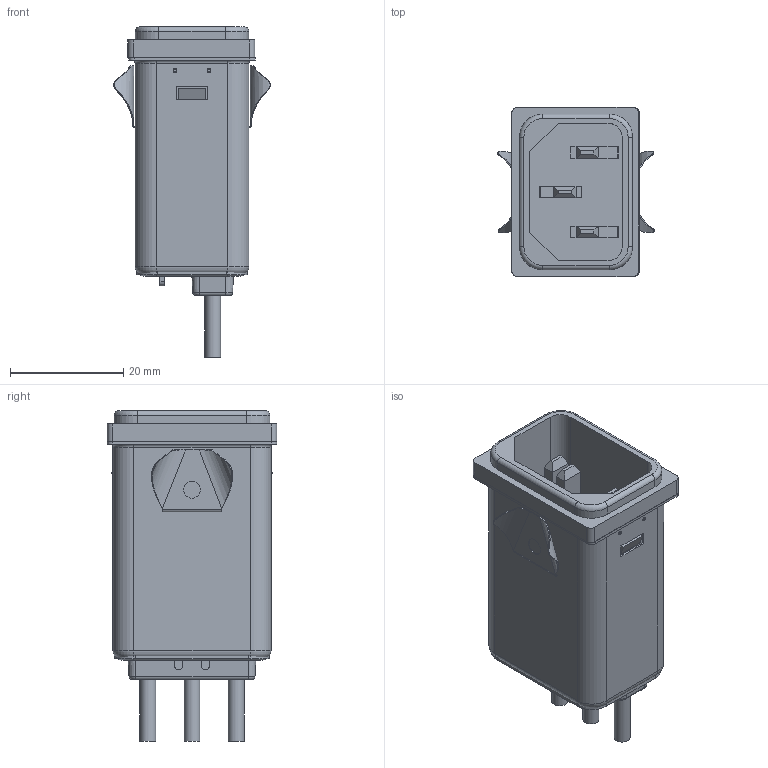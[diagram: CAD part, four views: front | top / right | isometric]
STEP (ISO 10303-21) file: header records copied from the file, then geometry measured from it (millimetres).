
FILE_DESCRIPTION((''),'2;1');
FILE_NAME('D:\_ PRODUCT\FN_PART_FOR_FN9222-XX-07\FN_UPDATE\DB_07 version_Update\3D_inventor\FN9222S1_07.stp','2012-01-12T14:24:40',('sayan.penton'),(''),'Autodesk Inventor 2010','Autodesk Inventor 2010','');
FILE_SCHEMA(('AUTOMOTIVE_DESIGN { 1 0 10303 214 1 1 1 1 }'));
Length unit declared in the file: millimetre
Products named in the file (1): Part7
Bounding box: 27.65 x 29.9 x 58.28 mm (x, y, z)
Surface area: 21552.7 mm2 (no closed solid volume)
Topology: 0 solids, 13 shells, 699 faces, 1853 edges, 1196 vertices
Faces by surface type: plane 457, cylinder 146, bspline 68, torus 20, cone 8
Full cylindrical faces by diameter (mm): 0.4 x2, 2 x4, 2.8 x3, 3 x2
Entity records: 23104 total; most frequent: CARTESIAN_POINT 4958, ORIENTED_EDGE 3656, DIRECTION 3462, EDGE_CURVE 1828, VECTOR 1370, LINE 1370, VERTEX_POINT 1196, AXIS2_PLACEMENT_3D 1046
